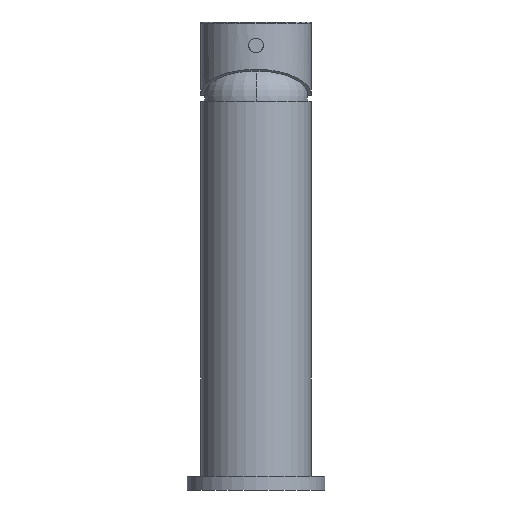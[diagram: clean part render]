
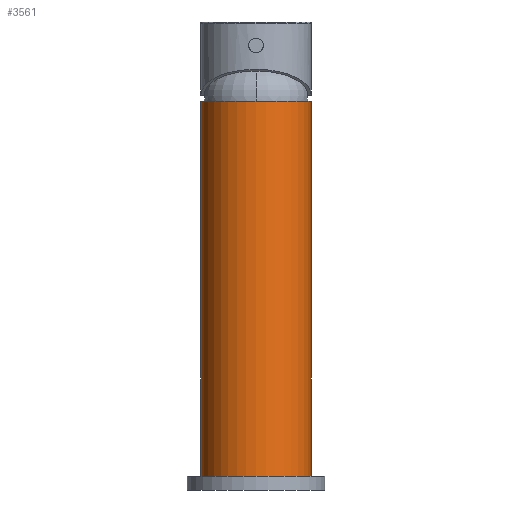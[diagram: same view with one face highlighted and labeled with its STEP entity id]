
A CAD part, front view. The second image highlights one B-rep face of the part: STEP entity #3561.
In plain terms, the highlighted cylindrical face has radius 20 mm (diameter 40 mm), a partial arc.
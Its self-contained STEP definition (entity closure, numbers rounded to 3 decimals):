
#3561 = ADVANCED_FACE ( 'NONE', ( #12827 ), #63379, .T. ) ;
#6820 = EDGE_CURVE ( 'NONE', #24336, #78306, #45417, .T. ) ;
#11038 = VERTEX_POINT ( 'NONE', #165207 ) ;
#11127 = DIRECTION ( 'NONE',  ( 0., 0., -1. ) ) ;
#11813 = VECTOR ( 'NONE', #31958, 1000. ) ;
#12827 = FACE_OUTER_BOUND ( 'NONE', #106588, .T. ) ;
#17354 = DIRECTION ( 'NONE',  ( 0., 0., 1. ) ) ;
#17465 = LINE ( 'NONE', #30915, #117555 ) ;
#23933 = ORIENTED_EDGE ( 'NONE', *, *, #107071, .F. ) ;
#24336 = VERTEX_POINT ( 'NONE', #58271 ) ;
#27608 = DIRECTION ( 'NONE',  ( 0., 0., -1. ) ) ;
#30915 = CARTESIAN_POINT ( 'NONE',  ( 20., 0., 136. ) ) ;
#31958 = DIRECTION ( 'NONE',  ( 0., 0., -1. ) ) ;
#35821 = AXIS2_PLACEMENT_3D ( 'NONE', #108494, #17354, #56923 ) ;
#36542 = VERTEX_POINT ( 'NONE', #132394 ) ;
#40247 = CARTESIAN_POINT ( 'NONE',  ( 0., 0., 136. ) ) ;
#45417 = LINE ( 'NONE', #58049, #11813 ) ;
#45429 = CIRCLE ( 'NONE', #83299, 20. ) ;
#49294 = CIRCLE ( 'NONE', #35821, 20. ) ;
#49861 = AXIS2_PLACEMENT_3D ( 'NONE', #112379, #11127, #163787 ) ;
#56923 = DIRECTION ( 'NONE',  ( 1., 0., 0. ) ) ;
#58049 = CARTESIAN_POINT ( 'NONE',  ( -20., 0., 136. ) ) ;
#58271 = CARTESIAN_POINT ( 'NONE',  ( -20., 0., 136. ) ) ;
#63379 = CYLINDRICAL_SURFACE ( 'NONE', #49861, 20. ) ;
#73250 = EDGE_CURVE ( 'NONE', #36542, #24336, #45429, .T. ) ;
#78306 = VERTEX_POINT ( 'NONE', #123169 ) ;
#83299 = AXIS2_PLACEMENT_3D ( 'NONE', #40247, #128001, #153270 ) ;
#96191 = ORIENTED_EDGE ( 'NONE', *, *, #117094, .T. ) ;
#106588 = EDGE_LOOP ( 'NONE', ( #23933, #108388, #124249, #96191 ) ) ;
#107071 = EDGE_CURVE ( 'NONE', #36542, #11038, #17465, .T. ) ;
#108388 = ORIENTED_EDGE ( 'NONE', *, *, #73250, .T. ) ;
#108494 = CARTESIAN_POINT ( 'NONE',  ( 0., 0., 0. ) ) ;
#112379 = CARTESIAN_POINT ( 'NONE',  ( 0., 0., 136. ) ) ;
#117094 = EDGE_CURVE ( 'NONE', #78306, #11038, #49294, .T. ) ;
#117555 = VECTOR ( 'NONE', #27608, 1000. ) ;
#123169 = CARTESIAN_POINT ( 'NONE',  ( -20., 0., 0. ) ) ;
#124249 = ORIENTED_EDGE ( 'NONE', *, *, #6820, .T. ) ;
#128001 = DIRECTION ( 'NONE',  ( 0., 0., -1. ) ) ;
#132394 = CARTESIAN_POINT ( 'NONE',  ( 20., 0., 136. ) ) ;
#153270 = DIRECTION ( 'NONE',  ( -1., 0., 0. ) ) ;
#163787 = DIRECTION ( 'NONE',  ( -1., 0., 0. ) ) ;
#165207 = CARTESIAN_POINT ( 'NONE',  ( 20., 0., 0. ) ) ;
